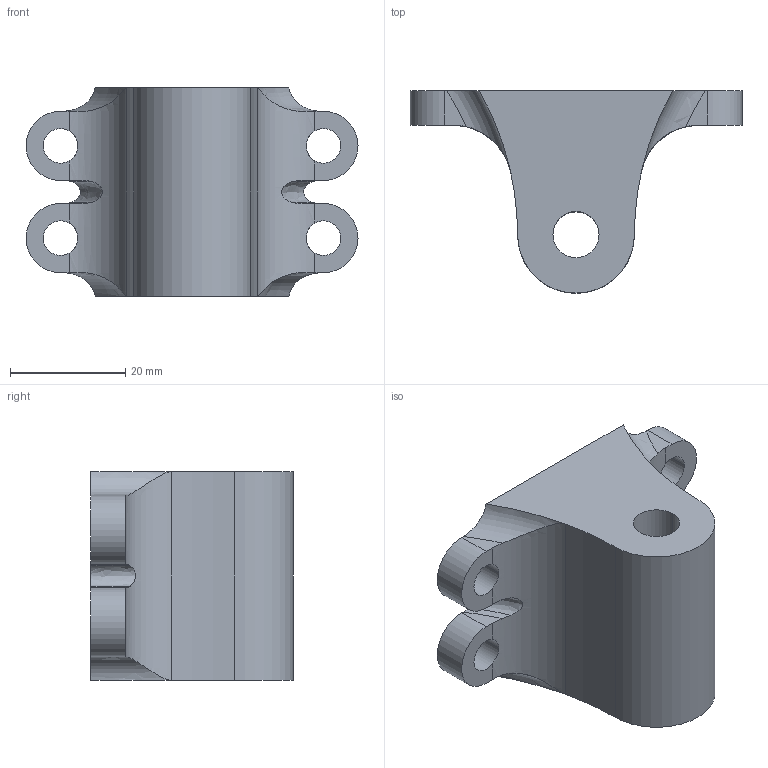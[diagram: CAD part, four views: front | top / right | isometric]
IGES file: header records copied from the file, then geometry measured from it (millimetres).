
Start section:  PTC IGES file: pullydrivebase.igs
Global section: file name: pullydrivebase.igs; native system: Creo Parametric by Parametric Technology Corporation; preprocessor: 2012130; author: GOC; organization: Unknown; date: 20141104.224151; units: millimetre
Bounding box: 57.61 x 35.14 x 36.19 mm (x, y, z)
Volume: 30096.3 mm3; surface area: 8374.5 mm2
Topology: 1 solids, 1 shells, 44 faces, 134 edges, 88 vertices
Faces by surface type: revolution 29, bspline 15
